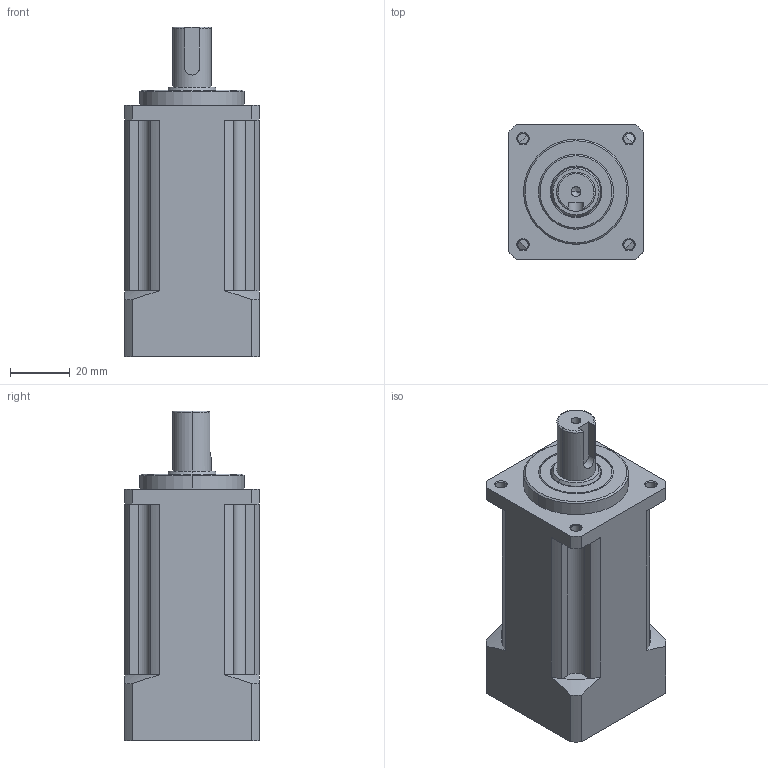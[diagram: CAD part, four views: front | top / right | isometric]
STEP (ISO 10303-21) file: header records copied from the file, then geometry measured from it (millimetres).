
FILE_DESCRIPTION (( 'STEP AP214' ), '1' );
FILE_NAME ('TAB-040-L2-8-30-46-M4.STEP', '2023-09-27T08:03:10', ( '' ), ( '' ), 'SwSTEP 2.0', 'SolidWorks 2016', '' );
FILE_SCHEMA (( 'AUTOMOTIVE_DESIGN' ));
Length unit declared in the file: millimetre
Products named in the file (1): TAB-040-L2-8-30-46-M4
Bounding box: 45 x 45 x 110 mm (x, y, z)
Volume: 146011 mm3; surface area: 34034.9 mm2
Topology: 3 solids, 12 shells, 357 faces, 840 edges, 520 vertices
Faces by surface type: cylinder 149, plane 137, cone 57, torus 14
Entity records: 14383 total; most frequent: CARTESIAN_POINT 2079, DIRECTION 1874, ORIENTED_EDGE 1628, EDGE_CURVE 814, AXIS2_PLACEMENT_3D 739, VERTEX_POINT 520, EDGE_LOOP 420, LINE 396
